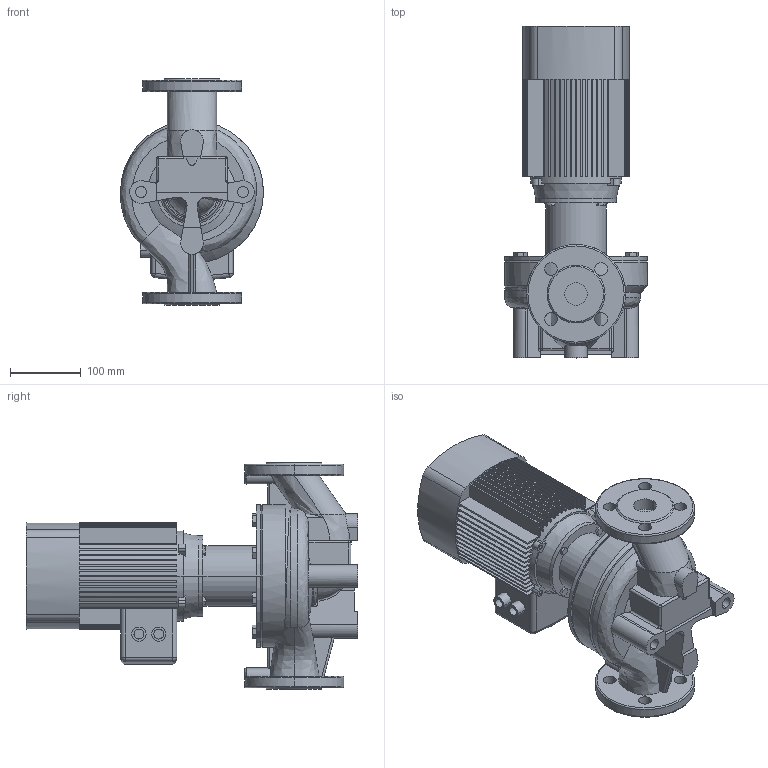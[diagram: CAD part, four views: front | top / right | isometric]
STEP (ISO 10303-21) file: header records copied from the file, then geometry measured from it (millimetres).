
FILE_DESCRIPTION (( 'STEP AP203' ), '1' );
FILE_NAME ('TD32-14G_2.STEP', '2022-05-02T13:24:05', ( '' ), ( '' ), 'SwSTEP 2.0', 'SolidWorks 2019', '' );
FILE_SCHEMA (( 'CONFIG_CONTROL_DESIGN' ));
Length unit declared in the file: millimetre
Products named in the file (4): ED_B14_YE2-80M1-2 (0.75); Pr_ch 32_TD32-14G_2; TD32-14G_2; Fon_32_TD32-14G_2
Assembly tree (3 placements, depth 2):
  TD32-14G_2
    Pr_ch 32_TD32-14G_2
    Fon_32_TD32-14G_2
    ED_B14_YE2-80M1-2 (0.75)
Bounding box: 202.08 x 469 x 320 mm (x, y, z)
Volume: 8402213.7 mm3; surface area: 731652.8 mm2
Topology: 3 solids, 4 shells, 646 faces, 1752 edges, 1145 vertices
Faces by surface type: plane 392, cylinder 167, bspline 36, torus 30, cone 11, sphere 10
Entity records: 26664 total; most frequent: CARTESIAN_POINT 9894, ORIENTED_EDGE 3500, DIRECTION 3382, EDGE_CURVE 1750, AXIS2_PLACEMENT_3D 1211, VERTEX_POINT 1145, VECTOR 960, LINE 960
